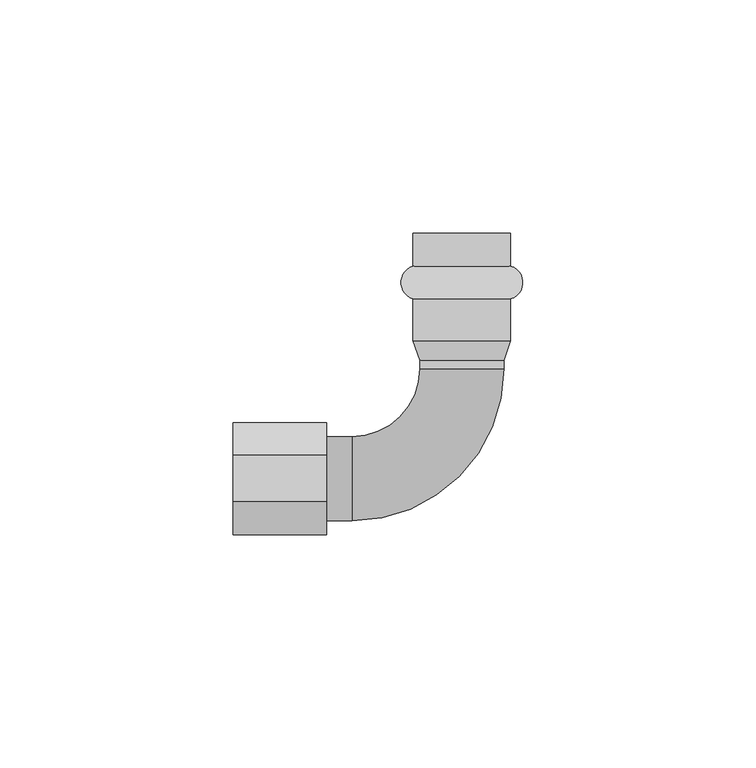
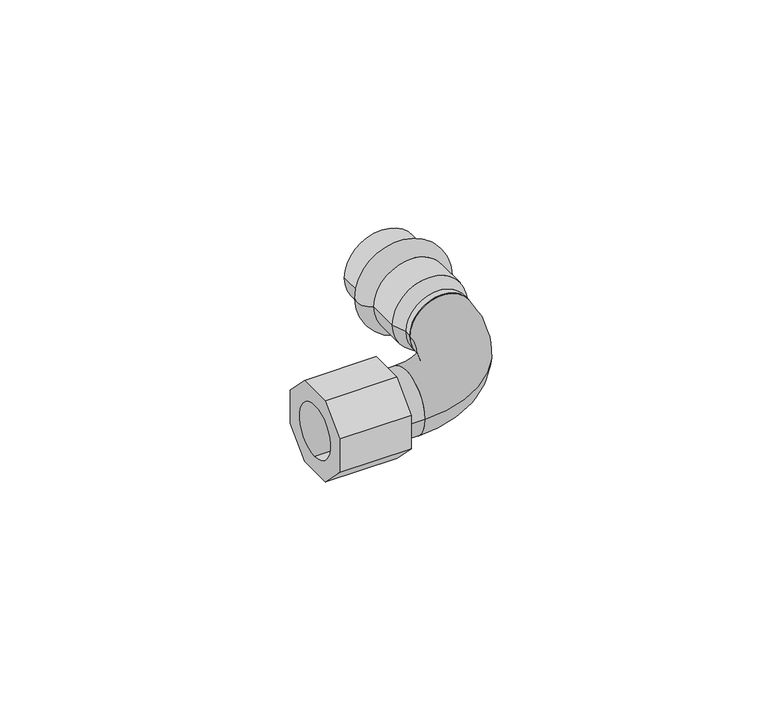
"""IFC4 building model written with IfcOpenShell, lengths in millimetres: valve geometry, Отвод_90°_с_переходом_на_внутреннюю_резьбу : Отвод_90°_с_переходом_на_внутреннюю_резьбу."""

import ifcopenshell
import ifcopenshell.guid

model = None  # the IFC model being written
_history = None  # IfcOwnerHistory: only IFC2X3 demands one
_inside = {}  # id of a spatial element -> (the spatial element, [elements in it])
_under = {}  # id of a project, library or spatial element -> (it, [spatial elements below it])
_declared = {}  # id of a project -> (the project, [libraries it declares])
_typed = {}  # id of a type object -> (the type object, [elements of that type])
_made_of = {}  # id of a material, layer set ... -> (it, [elements and type objects made of it])


def new_model(schema):
    """Start an empty IFC model of exactly this schema.

    Asked for "IFC4X3", IfcOpenShell would pick the latest addendum, in which some entities
    have other attributes; the version numbers below select the first issue.
    IFC2X3 requires an IfcOwnerHistory on every rooted entity: one is made here for all.
    """
    global model, _history
    if schema == "IFC4X3":
        model = ifcopenshell.file(schema_version=(4, 3, 0, 0))
    else:
        model = ifcopenshell.file(schema=schema)
    _inside.clear()
    _under.clear()
    _declared.clear()
    _typed.clear()
    _made_of.clear()
    _history = None
    if model.schema == "IFC2X3":
        org = make("IfcOrganization", Name="unknown")
        user = make(
            "IfcPersonAndOrganization",
            ThePerson=make("IfcPerson", FamilyName="unknown"),
            TheOrganization=org,
        )
        app = make(
            "IfcApplication",
            ApplicationDeveloper=org,
            Version="unknown",
            ApplicationFullName="unknown",
            ApplicationIdentifier="unknown",
        )
        _history = make(
            "IfcOwnerHistory",
            OwningUser=user,
            OwningApplication=app,
            ChangeAction="ADDED",
            CreationDate=0,
        )
    return model


def make(cls, **values):
    """One entity of the class cls with the attributes given. An attribute that is None is left unset."""
    return model.create_entity(
        cls, **{name: value for name, value in values.items() if value is not None}
    )


def rooted(cls, **values):
    """An entity with a GlobalId (a new one), such as an element, a storey or a relation."""
    return make(cls, GlobalId=ifcopenshell.guid.new(), OwnerHistory=_history, **values)


def si_unit(unit_type, name, prefix=None):
    """IfcSIUnit, for example si_unit("LENGTHUNIT", "METRE", prefix="MILLI")."""
    return make("IfcSIUnit", UnitType=unit_type, Prefix=prefix, Name=name)


def assignment(units):
    """IfcUnitAssignment: the units of a project."""
    return None if units is None else make("IfcUnitAssignment", Units=units)


def point(xyz):
    """IfcCartesianPoint."""
    return None if xyz is None else make("IfcCartesianPoint", Coordinates=xyz)


def direction(xyz):
    """IfcDirection."""
    return None if xyz is None else make("IfcDirection", DirectionRatios=xyz)


def frame(location, z_axis=None, x_axis=None):
    """IfcAxis2Placement3D, a coordinate frame: its origin and axes. An axis left out is left unset."""
    return make(
        "IfcAxis2Placement3D",
        Location=point(location),
        Axis=direction(z_axis),
        RefDirection=direction(x_axis),
    )


def frame_2d(location, x_axis=None):
    """IfcAxis2Placement2D, a coordinate frame in the plane: its origin and x axis."""
    return make(
        "IfcAxis2Placement2D", Location=point(location), RefDirection=direction(x_axis)
    )


def origin():
    """The frame at (0, 0, 0) with its axes left unset."""
    return frame((0.0, 0.0, 0.0))


def origin_2d():
    """The frame at (0, 0) in the plane with its x axis left unset."""
    return frame_2d((0.0, 0.0))


def place(relative_to, where):
    """IfcLocalPlacement: puts the frame where relative to a parent placement (None: the world)."""
    return make(
        "IfcLocalPlacement", PlacementRelTo=relative_to, RelativePlacement=where
    )


def context(
    kind, dimensions, precision=None, world=None, true_north=None, identifier=None
):
    """IfcGeometricRepresentationContext, for example the 3D "Model" context."""
    return make(
        "IfcGeometricRepresentationContext",
        ContextIdentifier=identifier,
        ContextType=kind,
        CoordinateSpaceDimension=dimensions,
        Precision=precision,
        WorldCoordinateSystem=world,
        TrueNorth=true_north,
    )


def project(units=None, contexts=None):
    """IfcProject with its units and contexts."""
    return rooted(
        "IfcProject",
        Name="project",
        RepresentationContexts=contexts,
        UnitsInContext=assignment(units),
    )


def spatial(cls, under=None, at=None, **own):
    """A site, building, storey or space (cls), placed at a placement, below another one or the project."""
    s = rooted(cls, ObjectPlacement=at, **own)
    if under is not None:
        _under.setdefault(under.id(), (under, []))[1].append(s)
    return s


def polyline(points):
    """IfcPolyline through the points."""
    return make("IfcPolyline", Points=[point(p) for p in points])


def circle_curve(where, radius):
    """IfcCircle in the frame where."""
    return make("IfcCircle", Position=where, Radius=radius)


def ellipse_curve(where, semi_axis1, semi_axis2):
    """IfcEllipse in the frame where."""
    return make(
        "IfcEllipse", Position=where, SemiAxis1=semi_axis1, SemiAxis2=semi_axis2
    )


def trimmed(basis, trim1, trim2, sense, master):
    """IfcTrimmedCurve: the piece of a basis curve between two trims."""
    return make(
        "IfcTrimmedCurve",
        BasisCurve=basis,
        Trim1=trim1,
        Trim2=trim2,
        SenseAgreement=sense,
        MasterRepresentation=master,
    )


def segment(curve, same_sense, transition):
    """IfcCompositeCurveSegment."""
    return make(
        "IfcCompositeCurveSegment",
        Transition=transition,
        SameSense=same_sense,
        ParentCurve=curve,
    )


def composite_curve(segments, self_intersect=None):
    """IfcCompositeCurve: segments joined end to end."""
    return make("IfcCompositeCurve", Segments=segments, SelfIntersect=self_intersect)


def outline(outer, holes=None, kind="AREA"):
    """IfcArbitraryClosedProfileDef: a profile drawn as a closed curve; with holes, ...WithVoids."""
    if holes is None:
        return make("IfcArbitraryClosedProfileDef", ProfileType=kind, OuterCurve=outer)
    return make(
        "IfcArbitraryProfileDefWithVoids",
        ProfileType=kind,
        OuterCurve=outer,
        InnerCurves=holes,
    )


def extrude(swept, where, along, depth):
    """IfcExtrudedAreaSolid: the profile swept, set in the frame where, extruded along a direction by depth."""
    return make(
        "IfcExtrudedAreaSolid",
        SweptArea=swept,
        Position=where,
        ExtrudedDirection=direction(along),
        Depth=depth,
    )


def shape(context_of_items, identifier, shape_type, items):
    """IfcShapeRepresentation: the items that make up one representation, for example the "Body"."""
    return make(
        "IfcShapeRepresentation",
        ContextOfItems=context_of_items,
        RepresentationIdentifier=identifier,
        RepresentationType=shape_type,
        Items=items,
    )


def source(mapping_origin, context_of_items, identifier, shape_type, items):
    """IfcRepresentationMap: a shape defined once, which mapped items show again and again."""
    return make(
        "IfcRepresentationMap",
        MappingOrigin=mapping_origin,
        MappedRepresentation=shape(context_of_items, identifier, shape_type, items),
    )


def transform(
    local_origin,
    x_axis=None,
    y_axis=None,
    z_axis=None,
    scale=None,
    scale2=None,
    scale3=None,
    uniform=True,
):
    """IfcCartesianTransformationOperator3D, or its non-uniform kind. x_axis, y_axis, z_axis: its Axis1, 2, 3."""
    if uniform:
        return make(
            "IfcCartesianTransformationOperator3D",
            Axis1=direction(x_axis),
            Axis2=direction(y_axis),
            LocalOrigin=point(local_origin),
            Scale=scale,
            Axis3=direction(z_axis),
        )
    return make(
        "IfcCartesianTransformationOperator3DnonUniform",
        Axis1=direction(x_axis),
        Axis2=direction(y_axis),
        LocalOrigin=point(local_origin),
        Scale=scale,
        Axis3=direction(z_axis),
        Scale2=scale2,
        Scale3=scale3,
    )


def mapped(mapping_source, mapping_target):
    """IfcMappedItem: shows the shape of a source again, moved by a transform."""
    return make(
        "IfcMappedItem", MappingSource=mapping_source, MappingTarget=mapping_target
    )


def made_of(thing, what):
    """Note that an element or type object is made of a material, layer set ...; save() writes the relation."""
    if what is not None:
        _made_of.setdefault(what.id(), (what, []))[1].append(thing)
    return thing


def element(
    cls,
    number,
    at=None,
    inside=None,
    cuts=None,
    type_object=None,
    material=None,
    context=None,
    identifier="Body",
    shape_type=None,
    held_by="IfcProductDefinitionShape",
    body=None,
    shapes=None,
    **own,
):
    """One element of the class cls, such as IfcWall. Its Tag is "e" and its number.

    at: its placement. inside: the storey or other place that contains it. cuts: it is an
    opening in that element (IfcRelVoidsElement). A single representation is given by context,
    identifier, shape_type and body (its items); several are given by shapes. held_by: the class
    of the entity that holds the representations. save() writes the other relations.
    """
    e = rooted(cls, Tag="e%d" % number, ObjectPlacement=at, **own)
    if body is not None:
        shapes = [shape(context, identifier, shape_type, body)]
    if shapes is not None:
        e.Representation = make(held_by, Representations=shapes)
    if inside is not None:
        _inside.setdefault(inside.id(), (inside, []))[1].append(e)
    if cuts is not None:
        rooted(
            "IfcRelVoidsElement", RelatingBuildingElement=cuts, RelatedOpeningElement=e
        )
    if type_object is not None:
        _typed.setdefault(type_object.id(), (type_object, []))[1].append(e)
    return made_of(e, material)


def aggregate(whole, parts):
    """IfcRelAggregates: a whole, such as a stair, and the parts it consists of."""
    return rooted("IfcRelAggregates", RelatingObject=whole, RelatedObjects=parts)


def save(model, path):
    """Write the relations noted so far, then the file.

    IfcRelAggregates (storeys below a building ...), IfcRelContainedInSpatialStructure (elements
    in a storey), IfcRelDefinesByType, IfcRelAssociatesMaterial and IfcRelDeclares: one each for
    every whole, place, type object, material and project.
    """
    for whole, parts in _under.values():
        aggregate(whole, parts)
    for where, things in _inside.values():
        rooted(
            "IfcRelContainedInSpatialStructure",
            RelatedElements=things,
            RelatingStructure=where,
        )
    for kind, things in _typed.values():
        rooted("IfcRelDefinesByType", RelatedObjects=things, RelatingType=kind)
    for what, things in _made_of.values():
        rooted("IfcRelAssociatesMaterial", RelatedObjects=things, RelatingMaterial=what)
    for by, libraries in _declared.values():
        rooted("IfcRelDeclares", RelatingContext=by, RelatedDefinitions=libraries)
    model.write(path)


def plane_surface(at):
    """IfcPlane: the flat surface through the origin of the frame at, square to its z axis."""
    return make("IfcPlane", Position=at)


def cylinder_surface(at, radius):
    """IfcCylindricalSurface: all points at the distance radius from the z axis of the frame at."""
    return make("IfcCylindricalSurface", Position=at, Radius=radius)


def revolved_surface(curve, axis_point, axis_direction):
    """IfcSurfaceOfRevolution: the curve turned about the line through axis_point along axis_direction."""
    return make(
        "IfcSurfaceOfRevolution",
        SweptCurve=make("IfcArbitraryOpenProfileDef", ProfileType="CURVE", Curve=curve),
        AxisPosition=make("IfcAxis1Placement", Location=point(axis_point), Axis=direction(axis_direction)),
    )


def advanced_brep(points, edges, surfaces, faces):
    """IfcAdvancedBrep: a solid bounded by faces that lie on surfaces and meet in shared edges.

    An edge is (start, end): straight between two places in points (the first is 0);
    or (start, end, curve); or (start, end, curve, False) where it runs against its curve.
    A face is (place in surfaces, loops), or (place, loops, False) where it looks against
    its surface's normal. A loop lists edges by number (the first is 1), with a minus sign
    where the edge is run from its end to its start. The first loop is the outer one.
    """
    corners = [point(p) for p in points]
    vertices = [make("IfcVertexPoint", VertexGeometry=c) for c in corners]
    made = []
    for start, end, *more in edges:
        made.append(
            make(
                "IfcEdgeCurve",
                EdgeStart=vertices[start],
                EdgeEnd=vertices[end],
                EdgeGeometry=more[0] if more else make("IfcPolyline", Points=[corners[start], corners[end]]),
                SameSense=more[1] if len(more) > 1 else True,
            )
        )
    hull = []
    for where, loops, *sense in faces:
        bounds = []
        for j, loop in enumerate(loops):
            ring = [make("IfcOrientedEdge", EdgeElement=made[abs(k) - 1], Orientation=k > 0) for k in loop]
            bounds.append(
                make(
                    "IfcFaceOuterBound" if j == 0 else "IfcFaceBound",
                    Bound=make("IfcEdgeLoop", EdgeList=ring),
                    Orientation=True,
                )
            )
        hull.append(make("IfcAdvancedFace", Bounds=bounds, FaceSurface=surfaces[where], SameSense=sense[0] if sense else True))
    return make("IfcAdvancedBrep", Outer=make("IfcClosedShell", CfsFaces=hull))


def valve_f463905c(model_context):
    return source(origin(), model_context, "Body", "SolidModel", [
        extrude(outline(polyline([(4.9705627, -12.0), (-4.9705627, -12.0), (-12.0, -4.9705627), (-12.0, 4.9705627), (-4.9705627, 12.0), (4.9705627, 12.0), (12.0, 4.9705627), (12.0, -4.9705627), (4.9705627, -12.0)]), holes=[composite_curve([segment(trimmed(circle_curve(origin_2d(), 7.5), [point((0.0, 7.5))], [point((0.0, -7.5))], True, "CARTESIAN"), True, "CONTINUOUS"), segment(trimmed(circle_curve(origin_2d(), 7.5), [point((0.0, -7.5))], [point((0.0, 7.5))], True, "CARTESIAN"), True, "CONTINUOUS")], self_intersect=False)]), frame((-49.0, 0.0, 0.0), z_axis=(1.0, 0.0, 0.0), x_axis=(0.0, 1.0, 0.0)), (0.0, 0.0, 1.0), 20.0),
        advanced_brep(
        [(10.45, 45.51, 0.0), (-10.45, 45.51, 0.0), (-10.45, 52.5, 0.0), (10.45, 52.5, 0.0), (10.45, 38.49, 0.0), (-10.45, 38.49, 0.0), (10.45, 29.5, 0.0), (-10.45, 29.5, 0.0), (9.0, 25.38, 0.0), (-9.0, 25.38, 0.0), (9.0, 23.5, 0.0), (-9.0, 23.5, 0.0), (0.0, 23.5, 0.0), (0.0, 52.5, 0.0)],
        [
            (0, 1, circle_curve(frame((0.0, 45.51, 0.0), z_axis=(0.0, 1.0, 0.0), x_axis=(-1.0, 0.0, 0.0)), 10.45)),
            (1, 2),
            (2, 3, circle_curve(frame((0.0, 52.5, 0.0), z_axis=(0.0, -1.0, 0.0), x_axis=(-1.0, 0.0, 0.0)), 10.45)),
            (3, 0),
            (1, 0, circle_curve(frame((0.0, 45.51, 0.0), z_axis=(0.0, 1.0, 0.0), x_axis=(-1.0, 0.0, 0.0)), 10.45)),
            (3, 2, circle_curve(frame((0.0, 52.5, 0.0), z_axis=(0.0, -1.0, 0.0), x_axis=(-1.0, 0.0, 0.0)), 10.45)),
            (4, 5, circle_curve(frame((0.0, 38.49, 0.0), z_axis=(0.0, 1.0, 0.0), x_axis=(-1.0, 0.0, 0.0)), 10.45)),
            (5, 1, circle_curve(frame((-9.3504491, 42.0, 0.0), z_axis=(0.0, 0.0, -1.0), x_axis=(0.0, 1.0, 0.0)), 3.6781941)),
            (0, 4, circle_curve(frame((9.3504491, 42.0, 0.0), z_axis=(0.0, 0.0, -1.0), x_axis=(0.0, 1.0, 0.0)), 3.6781941)),
            (5, 4, circle_curve(frame((0.0, 38.49, 0.0), z_axis=(0.0, 1.0, 0.0), x_axis=(-1.0, 0.0, 0.0)), 10.45)),
            (6, 7, circle_curve(frame((0.0, 29.5, 0.0), z_axis=(0.0, 1.0, 0.0), x_axis=(-1.0, 0.0, 0.0)), 10.45)),
            (7, 5),
            (4, 6),
            (7, 6, circle_curve(frame((0.0, 29.5, 0.0), z_axis=(0.0, 1.0, 0.0), x_axis=(-1.0, 0.0, 0.0)), 10.45)),
            (8, 9, circle_curve(frame((0.0, 25.38, 0.0), z_axis=(0.0, 1.0, 0.0), x_axis=(-1.0, 0.0, 0.0)), 9.0)),
            (9, 7),
            (6, 8),
            (9, 8, circle_curve(frame((0.0, 25.38, 0.0), z_axis=(0.0, 1.0, 0.0), x_axis=(-1.0, 0.0, 0.0)), 9.0)),
            (10, 11, circle_curve(frame((0.0, 23.5, 0.0), z_axis=(0.0, 1.0, 0.0), x_axis=(-1.0, 0.0, 0.0)), 9.0)),
            (11, 9),
            (8, 10),
            (11, 10, circle_curve(frame((0.0, 23.5, 0.0), z_axis=(0.0, 1.0, 0.0), x_axis=(-1.0, 0.0, 0.0)), 9.0)),
            (12, 11),
            (10, 12),
            (2, 13),
            (13, 3),
        ],
        [
            cylinder_surface(frame((0.0, 2052.5, 0.0), z_axis=(0.0, -1.0, 0.0), x_axis=(-1.0, 0.0, 0.0)), 10.45),
            revolved_surface(trimmed(ellipse_curve(frame((-9.3504491, 42.0, 0.0), z_axis=(0.0, 0.0, 1.0), x_axis=(0.0, 1.0, 0.0)), 3.6781941, 3.6781941), [point((-10.45, 45.51, 0.0))], [point((-10.45, 38.49, 0.0))], True, "CARTESIAN"), (0.0, 2052.5, 0.0), (0.0, -1.0, 0.0)),
            revolved_surface(polyline([(-10.45, 29.5, 0.0), (-9.0, 25.38, 0.0)]), (0.0, 2052.5, 0.0), (0.0, -1.0, 0.0)),
            cylinder_surface(frame((0.0, 2052.5, 0.0), z_axis=(0.0, -1.0, 0.0), x_axis=(-1.0, 0.0, 0.0)), 9.0),
            plane_surface(frame((0.0, 23.5, 0.0), z_axis=(0.0, -1.0, 0.0), x_axis=(-1.0, 0.0, 0.0))),
            plane_surface(frame((0.0, 52.5, 0.0), z_axis=(0.0, 1.0, 0.0), x_axis=(-1.0, 0.0, 0.0))),
        ],
        [
            (0, [[1, 2, 3, 4]]),
            (0, [[5, -4, 6, -2]]),
            (1, [[7, 8, -1, 9]]),
            (1, [[10, -9, -5, -8]]),
            (0, [[11, 12, -7, 13]]),
            (0, [[14, -13, -10, -12]]),
            (2, [[15, 16, -11, 17]]),
            (2, [[18, -17, -14, -16]]),
            (3, [[19, 20, -15, 21]]),
            (3, [[22, -21, -18, -20]]),
            (4, [[23, -19, 24]]),
            (4, [[-24, -22, -23]]),
            (5, [[-3, 25, 26]]),
            (5, [[-6, -26, -25]]),
        ],
    ),
        advanced_brep(
        [(-23.5, -9.0, 0.0), (-23.5, 9.0, 0.0), (-23.5, 0.0, 0.0), (-29.0, -9.0, 0.0), (-29.0, 9.0, 0.0), (-29.0, 0.0, 0.0)],
        [
            (0, 1, circle_curve(frame((-23.5, 0.0, 0.0), z_axis=(1.0, 0.0, 0.0), x_axis=(0.0, 1.0, 0.0)), 9.0)),
            (1, 2),
            (2, 0),
            (1, 0, circle_curve(frame((-23.5, 0.0, 0.0), z_axis=(1.0, 0.0, 0.0), x_axis=(0.0, 1.0, 0.0)), 9.0)),
            (3, 4, circle_curve(frame((-29.0, 0.0, 0.0), z_axis=(1.0, 0.0, 0.0), x_axis=(0.0, 1.0, 0.0)), 9.0)),
            (4, 1),
            (0, 3),
            (4, 3, circle_curve(frame((-29.0, 0.0, 0.0), z_axis=(1.0, 0.0, 0.0), x_axis=(0.0, 1.0, 0.0)), 9.0)),
            (5, 4),
            (3, 5),
        ],
        [
            plane_surface(frame((-23.5, 0.0, 0.0), z_axis=(1.0, 0.0, 0.0), x_axis=(0.0, 1.0, 0.0))),
            cylinder_surface(frame((2000.0, 0.0, 0.0), z_axis=(-1.0, 0.0, 0.0), x_axis=(0.0, 1.0, 0.0)), 9.0),
            plane_surface(frame((-29.0, 0.0, 0.0), z_axis=(-1.0, 0.0, 0.0), x_axis=(0.0, 1.0, 0.0))),
        ],
        [
            (0, [[1, 2, 3]]),
            (0, [[4, -3, -2]]),
            (1, [[5, 6, -1, 7]]),
            (1, [[8, -7, -4, -6]]),
            (2, [[9, -5, 10]]),
            (2, [[-10, -8, -9]]),
        ],
    ),
        advanced_brep(
        [(-9.0, 23.5, 0.0), (9.0, 23.5, 0.0), (-23.5, 9.0, 0.0), (-23.5, -9.0, 0.0)],
        [
            (0, 1, circle_curve(frame((0.0, 23.5, 0.0), z_axis=(0.0, 1.0, 0.0), x_axis=(1.0, 0.0, 0.0)), 9.0)),
            (1, 0, circle_curve(frame((0.0, 23.5, 0.0), z_axis=(0.0, 1.0, 0.0), x_axis=(1.0, 0.0, 0.0)), 9.0)),
            (2, 3, circle_curve(frame((-23.5, 0.0, 0.0), z_axis=(-1.0, 0.0, 0.0), x_axis=(0.0, -1.0, 0.0)), 9.0)),
            (3, 2, circle_curve(frame((-23.5, 0.0, 0.0), z_axis=(-1.0, 0.0, 0.0), x_axis=(0.0, -1.0, 0.0)), 9.0)),
            (3, 1, circle_curve(frame((-23.5, 23.5, 0.0), z_axis=(0.0, 0.0, 1.0), x_axis=(1.0, 0.0, 0.0)), 32.5)),
            (0, 2, circle_curve(frame((-23.5, 23.5, 0.0), z_axis=(0.0, 0.0, -1.0), x_axis=(1.0, 0.0, 0.0)), 14.5)),
        ],
        [
            plane_surface(frame((0.0, 23.5, 0.0), z_axis=(0.0, 1.0, 0.0), x_axis=(0.0, 0.0, 1.0))),
            plane_surface(frame((-23.5, 0.0, 0.0), z_axis=(-1.0, 0.0, 0.0), x_axis=(0.0, 0.0, 1.0))),
            revolved_surface(trimmed(ellipse_curve(frame((0.0, 23.5, 0.0), z_axis=(0.0, 1.0, 0.0), x_axis=(1.0, 0.0, 0.0)), 9.0, 9.0), [point((-9.0, 23.5, 0.0))], [point((9.0, 23.5, 0.0))], True, "CARTESIAN"), (-23.5, 23.5, 0.0), (0.0, 0.0, -1.0)),
            revolved_surface(trimmed(ellipse_curve(frame((0.0, 23.5, 0.0), z_axis=(0.0, 1.0, 0.0), x_axis=(1.0, 0.0, 0.0)), 9.0, 9.0), [point((9.0, 23.5, 0.0))], [point((-9.0, 23.5, 0.0))], True, "CARTESIAN"), (-23.5, 23.5, 0.0), (0.0, 0.0, -1.0)),
        ],
        [
            (0, [[1, 2]]),
            (1, [[3, 4]]),
            (2, [[5, -1, 6, -4]]),
            (3, [[-6, -2, -5, -3]]),
        ],
    ),
    ])


if __name__ == "__main__":
    model = new_model("IFC4")
    model_context = context("Model", 3, world=origin())
    ifc_project = project(units=[si_unit("LENGTHUNIT", "METRE", prefix="MILLI")], contexts=[model_context])
    site = spatial("IfcSite", under=ifc_project)
    building = spatial("IfcBuilding", under=site)
    placement = place(None, origin())
    valve_shape = valve_f463905c(model_context)
    element("IfcValve", 1, ObjectType="Отвод_90°_с_переходом_на_внутреннюю_резьбу : Отвод_90°_с_переходом_на_внутреннюю_резьбу", at=placement, inside=building, context=model_context, shape_type="MappedRepresentation", body=[
        mapped(valve_shape, transform((0.0, 0.0, 0.0), x_axis=(1.0, 0.0, 0.0), y_axis=(0.0, 1.0, 0.0), z_axis=(0.0, 0.0, 1.0))),
    ])
    save(model, "model.ifc")
